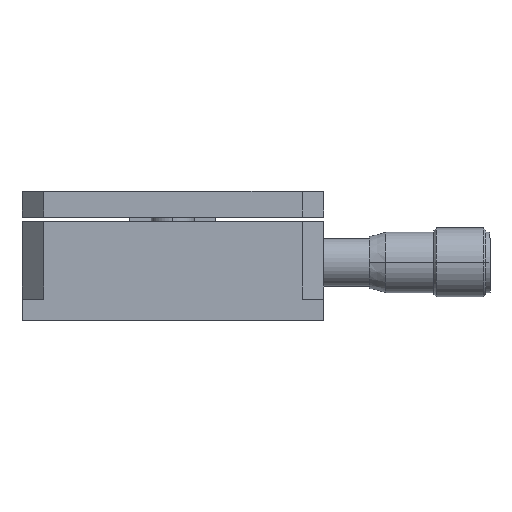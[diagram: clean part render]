
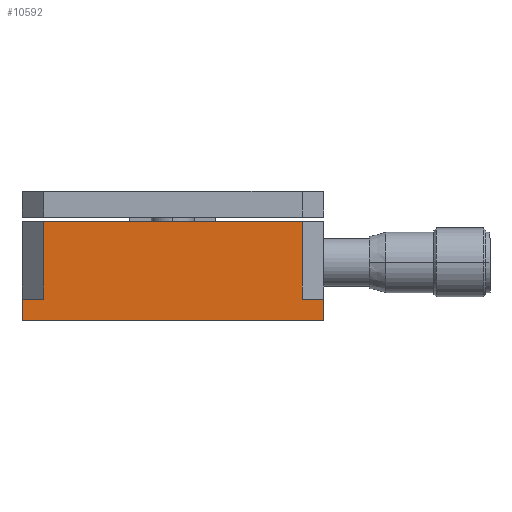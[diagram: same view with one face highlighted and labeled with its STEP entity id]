
A CAD part, left-side view. The second image highlights one B-rep face of the part: STEP entity #10592.
In plain terms, the highlighted planar face has unit normal (-1, 0, 0).
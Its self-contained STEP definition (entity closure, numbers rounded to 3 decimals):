
#2706 = VERTEX_POINT ( 'NONE', #21543 ) ;
#2725 = VERTEX_POINT ( 'NONE', #21573 ) ;
#2727 = EDGE_CURVE ( 'NONE', #2728, #2725, #21572, .T. ) ;
#2728 = VERTEX_POINT ( 'NONE', #21568 ) ;
#2787 = EDGE_CURVE ( 'NONE', #2706, #2728, #21683, .T. ) ;
#5434 = CARTESIAN_POINT ( 'NONE',  ( -38.889, 60.695, 23. ) ) ;
#5463 = CARTESIAN_POINT ( 'NONE',  ( -38.889, 60.695, 5. ) ) ;
#5464 = DIRECTION ( 'NONE',  ( 0., 1., 0. ) ) ;
#5465 = VECTOR ( 'NONE', #5464, 1000. ) ;
#5466 = CARTESIAN_POINT ( 'NONE',  ( -38.889, -4.305, 5. ) ) ;
#5467 = LINE ( 'NONE', #5466, #5465 ) ;
#5469 = CARTESIAN_POINT ( 'NONE',  ( -38.889, 65.695, 5. ) ) ;
#5557 = DIRECTION ( 'NONE',  ( 0., 1., 0. ) ) ;
#5558 = VECTOR ( 'NONE', #5557, 1000. ) ;
#5559 = CARTESIAN_POINT ( 'NONE',  ( -38.889, -4.305, 23. ) ) ;
#5560 = LINE ( 'NONE', #5559, #5558 ) ;
#5622 = DIRECTION ( 'NONE',  ( 0., 0., -1. ) ) ;
#5623 = VECTOR ( 'NONE', #5622, 1000. ) ;
#5624 = CARTESIAN_POINT ( 'NONE',  ( -38.889, 60.695, 0. ) ) ;
#5625 = LINE ( 'NONE', #5624, #5623 ) ;
#5639 = CARTESIAN_POINT ( 'NONE',  ( -38.889, 65.695, 0. ) ) ;
#5640 = DIRECTION ( 'NONE',  ( 0., 0., 1. ) ) ;
#5641 = VECTOR ( 'NONE', #5640, 1000. ) ;
#5642 = CARTESIAN_POINT ( 'NONE',  ( -38.889, 65.695, 0. ) ) ;
#5643 = LINE ( 'NONE', #5642, #5641 ) ;
#5644 = DIRECTION ( 'NONE',  ( 0., -1., 0. ) ) ;
#5645 = DIRECTION ( 'NONE',  ( -1., 0., 0. ) ) ;
#5646 = CARTESIAN_POINT ( 'NONE',  ( -38.889, -4.305, 0. ) ) ;
#5647 = AXIS2_PLACEMENT_3D ( 'NONE', #5646, #5645, #5644 ) ;
#5649 = PLANE ( 'NONE',  #5647 ) ;
#5650 = FACE_OUTER_BOUND ( 'NONE', #10593, .T. ) ;
#5703 = DIRECTION ( 'NONE',  ( 0., 0., -1. ) ) ;
#5704 = VECTOR ( 'NONE', #5703, 1000. ) ;
#5705 = CARTESIAN_POINT ( 'NONE',  ( -38.889, -4.305, 0. ) ) ;
#5706 = LINE ( 'NONE', #5705, #5704 ) ;
#5707 = CARTESIAN_POINT ( 'NONE',  ( -38.889, -4.305, 0. ) ) ;
#5708 = DIRECTION ( 'NONE',  ( 0., -1., 0. ) ) ;
#5709 = VECTOR ( 'NONE', #5708, 1000. ) ;
#5710 = CARTESIAN_POINT ( 'NONE',  ( -38.889, 30.695, 0. ) ) ;
#5711 = LINE ( 'NONE', #5710, #5709 ) ;
#10470 = VERTEX_POINT ( 'NONE', #5434 ) ;
#10488 = VERTEX_POINT ( 'NONE', #5469 ) ;
#10491 = EDGE_CURVE ( 'NONE', #10492, #10488, #5467, .T. ) ;
#10492 = VERTEX_POINT ( 'NONE', #5463 ) ;
#10513 = EDGE_CURVE ( 'NONE', #2725, #10470, #5560, .T. ) ;
#10549 = EDGE_CURVE ( 'NONE', #10470, #10492, #5625, .T. ) ;
#10592 = ADVANCED_FACE ( 'NONE', ( #5650 ), #5649, .T. ) ;
#10593 = EDGE_LOOP ( 'NONE', ( #10594, #10595, #10596, #10597, #10654, #10657, #10659, #10660 ) ) ;
#10594 = ORIENTED_EDGE ( 'NONE', *, *, #10513, .T. ) ;
#10595 = ORIENTED_EDGE ( 'NONE', *, *, #10549, .T. ) ;
#10596 = ORIENTED_EDGE ( 'NONE', *, *, #10491, .T. ) ;
#10597 = ORIENTED_EDGE ( 'NONE', *, *, #10598, .F. ) ;
#10598 = EDGE_CURVE ( 'NONE', #10599, #10488, #5643, .T. ) ;
#10599 = VERTEX_POINT ( 'NONE', #5639 ) ;
#10654 = ORIENTED_EDGE ( 'NONE', *, *, #10655, .T. ) ;
#10655 = EDGE_CURVE ( 'NONE', #10599, #10656, #5711, .T. ) ;
#10656 = VERTEX_POINT ( 'NONE', #5707 ) ;
#10657 = ORIENTED_EDGE ( 'NONE', *, *, #10658, .F. ) ;
#10658 = EDGE_CURVE ( 'NONE', #2706, #10656, #5706, .T. ) ;
#10659 = ORIENTED_EDGE ( 'NONE', *, *, #2787, .T. ) ;
#10660 = ORIENTED_EDGE ( 'NONE', *, *, #2727, .T. ) ;
#21543 = CARTESIAN_POINT ( 'NONE',  ( -38.889, -4.305, 5. ) ) ;
#21568 = CARTESIAN_POINT ( 'NONE',  ( -38.889, 0.695, 5. ) ) ;
#21569 = DIRECTION ( 'NONE',  ( 0., 0., 1. ) ) ;
#21570 = VECTOR ( 'NONE', #21569, 1000. ) ;
#21571 = CARTESIAN_POINT ( 'NONE',  ( -38.889, 0.695, 0. ) ) ;
#21572 = LINE ( 'NONE', #21571, #21570 ) ;
#21573 = CARTESIAN_POINT ( 'NONE',  ( -38.889, 0.695, 23. ) ) ;
#21680 = DIRECTION ( 'NONE',  ( 0., 1., 0. ) ) ;
#21681 = VECTOR ( 'NONE', #21680, 1000. ) ;
#21682 = CARTESIAN_POINT ( 'NONE',  ( -38.889, -4.305, 5. ) ) ;
#21683 = LINE ( 'NONE', #21682, #21681 ) ;
